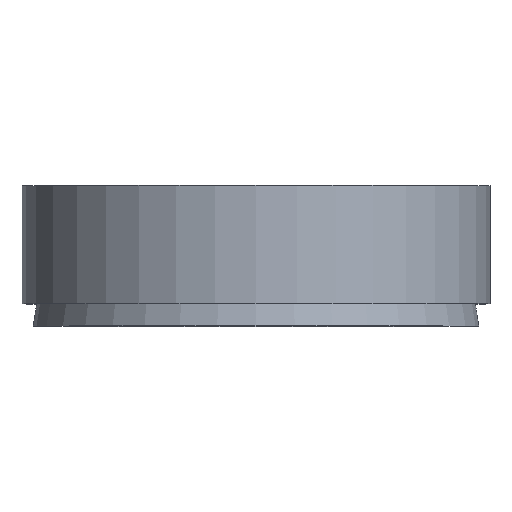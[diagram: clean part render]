
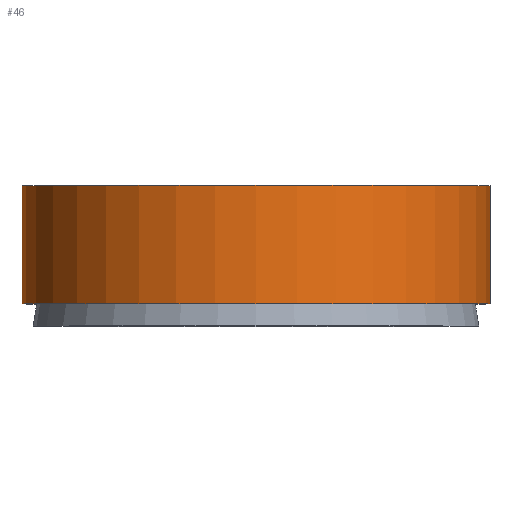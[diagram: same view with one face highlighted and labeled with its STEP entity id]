
A CAD part, top view. The second image highlights one B-rep face of the part: STEP entity #46.
In plain terms, the highlighted cylindrical face has radius 10.5 mm (diameter 21 mm), a full revolution.
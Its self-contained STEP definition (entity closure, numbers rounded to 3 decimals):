
#46 = ADVANCED_FACE( '', ( #93, #94 ), #95, .T. );
#93 = FACE_OUTER_BOUND( '', #132, .T. );
#94 = FACE_OUTER_BOUND( '', #133, .T. );
#95 = CYLINDRICAL_SURFACE( '', #134, 10.5 );
#132 = EDGE_LOOP( '', ( #179 ) );
#133 = EDGE_LOOP( '', ( #180 ) );
#134 = AXIS2_PLACEMENT_3D( '', #181, #182, #183 );
#179 = ORIENTED_EDGE( '', *, *, #189, .F. );
#180 = ORIENTED_EDGE( '', *, *, #198, .T. );
#181 = CARTESIAN_POINT( '', ( 0., -60., 0. ) );
#182 = DIRECTION( '', ( 0., 1., 0. ) );
#183 = DIRECTION( '', ( 0., 0., -1. ) );
#189 = EDGE_CURVE( '', #208, #208, #209, .T. );
#198 = EDGE_CURVE( '', #221, #221, #222, .T. );
#208 = VERTEX_POINT( '', #232 );
#209 = CIRCLE( '', #233, 10.5 );
#221 = VERTEX_POINT( '', #245 );
#222 = CIRCLE( '', #246, 10.5 );
#232 = CARTESIAN_POINT( '', ( 0., 1., -10.5 ) );
#233 = AXIS2_PLACEMENT_3D( '', #257, #258, #259 );
#245 = CARTESIAN_POINT( '', ( 0., 6.3, -10.5 ) );
#246 = AXIS2_PLACEMENT_3D( '', #269, #270, #271 );
#257 = CARTESIAN_POINT( '', ( 0., 1., 0. ) );
#258 = DIRECTION( '', ( 0., -1., 0. ) );
#259 = DIRECTION( '', ( 0., 0., -1. ) );
#269 = CARTESIAN_POINT( '', ( 0., 6.3, 0. ) );
#270 = DIRECTION( '', ( 0., -1., 0. ) );
#271 = DIRECTION( '', ( 0., 0., -1. ) );
